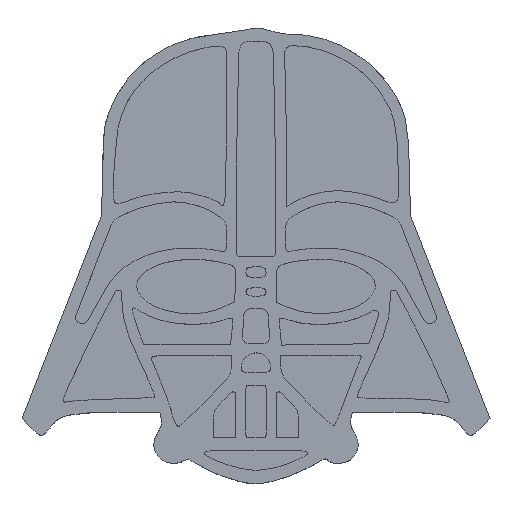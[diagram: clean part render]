
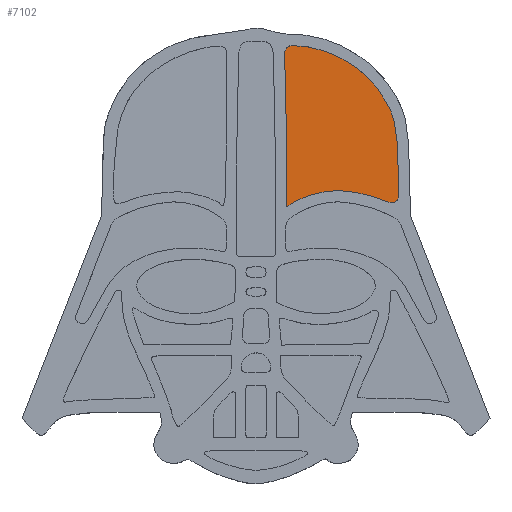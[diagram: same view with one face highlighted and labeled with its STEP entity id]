
A CAD part, top view. The second image highlights one B-rep face of the part: STEP entity #7102.
In plain terms, the highlighted planar face has unit normal (0, 0, 1).
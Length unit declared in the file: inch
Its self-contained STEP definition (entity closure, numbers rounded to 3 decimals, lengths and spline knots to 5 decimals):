
#354=B_SPLINE_CURVE_WITH_KNOTS('',3,(#9709,#9710,#9711,#9712,#9713,#9714,
#9715),.UNSPECIFIED.,.F.,.F.,(4,3,4),(-1.,0.,0.),
 .UNSPECIFIED.);
#355=B_SPLINE_CURVE_WITH_KNOTS('',3,(#9717,#9718,#9719,#9720,#9721,#9722,
#9723),.UNSPECIFIED.,.F.,.F.,(4,3,4),(-1.,-0.84795,0.),
 .UNSPECIFIED.);
#356=B_SPLINE_CURVE_WITH_KNOTS('',3,(#9725,#9726,#9727,#9728,#9729,#9730,
#9731),.UNSPECIFIED.,.F.,.F.,(4,3,4),(-1.,-0.65431,0.),
 .UNSPECIFIED.);
#357=B_SPLINE_CURVE_WITH_KNOTS('',3,(#9739,#9740,#9741,#9742,#9743,#9744,
#9745,#9746,#9747,#9748),.UNSPECIFIED.,.F.,.F.,(4,3,3,4),(0.05689,
0.70407,1.05419,1.10248),.UNSPECIFIED.);
#358=B_SPLINE_CURVE_WITH_KNOTS('',3,(#9749,#9750,#9751,#9752,#9753,#9754,
#9755,#9756,#9757,#9758),.UNSPECIFIED.,.F.,.F.,(4,3,3,4),(0.20795,
0.65664,1.12277,1.12527),.UNSPECIFIED.);
#369=CIRCLE('',#7558,0.05);
#370=CIRCLE('',#7559,0.05633);
#427=LINE('',#9707,#931);
#428=LINE('',#9735,#932);
#429=LINE('',#9737,#933);
#931=VECTOR('',#7949,0.3937);
#932=VECTOR('',#7952,0.3937);
#933=VECTOR('',#7953,0.3937);
#1428=FACE_OUTER_BOUND('',#1831,.T.);
#1831=EDGE_LOOP('',(#4921,#4922,#4923,#4924,#4925,#4926,#4927,#4928,#4929,
#4930));
#3021=VERTEX_POINT('',#9703);
#3022=VERTEX_POINT('',#9704);
#3023=VERTEX_POINT('',#9706);
#3024=VERTEX_POINT('',#9708);
#3025=VERTEX_POINT('',#9716);
#3026=VERTEX_POINT('',#9724);
#3027=VERTEX_POINT('',#9732);
#3028=VERTEX_POINT('',#9734);
#3029=VERTEX_POINT('',#9736);
#3030=VERTEX_POINT('',#9738);
#3781=EDGE_CURVE('',#3021,#3022,#369,.T.);
#3782=EDGE_CURVE('',#3023,#3021,#427,.T.);
#3783=EDGE_CURVE('',#3024,#3023,#354,.T.);
#3784=EDGE_CURVE('',#3025,#3024,#355,.T.);
#3785=EDGE_CURVE('',#3026,#3025,#356,.T.);
#3786=EDGE_CURVE('',#3027,#3026,#370,.T.);
#3787=EDGE_CURVE('',#3028,#3027,#428,.T.);
#3788=EDGE_CURVE('',#3029,#3028,#429,.T.);
#3789=EDGE_CURVE('',#3030,#3029,#357,.T.);
#3790=EDGE_CURVE('',#3022,#3030,#358,.T.);
#4921=ORIENTED_EDGE('',*,*,#3781,.F.);
#4922=ORIENTED_EDGE('',*,*,#3782,.F.);
#4923=ORIENTED_EDGE('',*,*,#3783,.F.);
#4924=ORIENTED_EDGE('',*,*,#3784,.F.);
#4925=ORIENTED_EDGE('',*,*,#3785,.F.);
#4926=ORIENTED_EDGE('',*,*,#3786,.F.);
#4927=ORIENTED_EDGE('',*,*,#3787,.F.);
#4928=ORIENTED_EDGE('',*,*,#3788,.F.);
#4929=ORIENTED_EDGE('',*,*,#3789,.F.);
#4930=ORIENTED_EDGE('',*,*,#3790,.F.);
#7017=PLANE('',#7557);
#7102=ADVANCED_FACE('',(#1428),#7017,.T.);
#7557=AXIS2_PLACEMENT_3D('',#9702,#7945,#7946);
#7558=AXIS2_PLACEMENT_3D('',#9705,#7947,#7948);
#7559=AXIS2_PLACEMENT_3D('',#9733,#7950,#7951);
#7945=DIRECTION('center_axis',(0.,0.,1.));
#7946=DIRECTION('ref_axis',(1.,0.,0.));
#7947=DIRECTION('center_axis',(0.,0.,-1.));
#7948=DIRECTION('ref_axis',(-0.404,-0.915,0.));
#7949=DIRECTION('',(0.021,-1.,0.));
#7950=DIRECTION('center_axis',(0.,0.,-1.));
#7951=DIRECTION('ref_axis',(0.154,0.988,0.));
#7952=DIRECTION('',(-0.023,1.,0.));
#7953=DIRECTION('',(0.,1.,0.));
#9702=CARTESIAN_POINT('Origin',(3.78094,-4.88687,0.));
#9703=CARTESIAN_POINT('',(4.79794,-4.45418,0.));
#9704=CARTESIAN_POINT('',(4.72773,-4.50095,0.));
#9705=CARTESIAN_POINT('Origin',(4.74795,-4.45522,0.));
#9706=CARTESIAN_POINT('',(4.79433,-4.28089,0.));
#9707=CARTESIAN_POINT('',(4.79794,-4.45418,0.));
#9708=CARTESIAN_POINT('',(4.7668,-3.93099,0.));
#9709=CARTESIAN_POINT('Ctrl Pts',(4.7668,-3.93099,0.));
#9710=CARTESIAN_POINT('Ctrl Pts',(4.78412,-4.00505,0.));
#9711=CARTESIAN_POINT('Ctrl Pts',(4.79071,-4.10685,0.));
#9712=CARTESIAN_POINT('Ctrl Pts',(4.79433,-4.28089,0.));
#9713=CARTESIAN_POINT('Ctrl Pts',(4.79433,-4.28089,0.));
#9714=CARTESIAN_POINT('Ctrl Pts',(4.79433,-4.28089,0.));
#9715=CARTESIAN_POINT('Ctrl Pts',(4.79433,-4.28089,0.));
#9716=CARTESIAN_POINT('',(4.6662,-3.72046,0.));
#9717=CARTESIAN_POINT('Ctrl Pts',(4.6662,-3.72046,0.));
#9718=CARTESIAN_POINT('Ctrl Pts',(4.67474,-3.73344,0.));
#9719=CARTESIAN_POINT('Ctrl Pts',(4.68265,-3.74571,0.));
#9720=CARTESIAN_POINT('Ctrl Pts',(4.68995,-3.75742,0.));
#9721=CARTESIAN_POINT('Ctrl Pts',(4.73066,-3.82272,0.));
#9722=CARTESIAN_POINT('Ctrl Pts',(4.7521,-3.86827,0.));
#9723=CARTESIAN_POINT('Ctrl Pts',(4.7668,-3.93099,0.));
#9724=CARTESIAN_POINT('',(4.0497,-3.38558,0.));
#9725=CARTESIAN_POINT('Ctrl Pts',(4.0497,-3.38558,0.));
#9726=CARTESIAN_POINT('Ctrl Pts',(4.12732,-3.38562,0.));
#9727=CARTESIAN_POINT('Ctrl Pts',(4.21034,-3.402,0.));
#9728=CARTESIAN_POINT('Ctrl Pts',(4.29074,-3.43213,0.));
#9729=CARTESIAN_POINT('Ctrl Pts',(4.44292,-3.48917,0.));
#9730=CARTESIAN_POINT('Ctrl Pts',(4.58445,-3.59611,0.));
#9731=CARTESIAN_POINT('Ctrl Pts',(4.6662,-3.72046,0.));
#9732=CARTESIAN_POINT('',(3.98474,-3.44271,0.));
#9733=CARTESIAN_POINT('Origin',(4.04104,-3.44124,0.));
#9734=CARTESIAN_POINT('',(3.99863,-4.04104,0.));
#9735=CARTESIAN_POINT('',(3.98474,-3.44271,0.));
#9736=CARTESIAN_POINT('',(3.99863,-4.53434,0.));
#9737=CARTESIAN_POINT('',(3.99863,-4.53434,0.));
#9738=CARTESIAN_POINT('',(4.36738,-4.41783,0.));
#9739=CARTESIAN_POINT('Ctrl Pts',(4.36738,-4.41783,0.));
#9740=CARTESIAN_POINT('Ctrl Pts',(4.2887,-4.41769,0.));
#9741=CARTESIAN_POINT('Ctrl Pts',(4.2042,-4.43594,0.));
#9742=CARTESIAN_POINT('Ctrl Pts',(4.12795,-4.46518,0.));
#9743=CARTESIAN_POINT('Ctrl Pts',(4.08671,-4.48099,0.));
#9744=CARTESIAN_POINT('Ctrl Pts',(4.0481,-4.50005,0.));
#9745=CARTESIAN_POINT('Ctrl Pts',(4.01426,-4.52351,0.));
#9746=CARTESIAN_POINT('Ctrl Pts',(4.00905,-4.52712,0.));
#9747=CARTESIAN_POINT('Ctrl Pts',(4.00384,-4.53073,0.));
#9748=CARTESIAN_POINT('Ctrl Pts',(3.99863,-4.53434,0.));
#9749=CARTESIAN_POINT('Ctrl Pts',(4.72773,-4.50095,0.));
#9750=CARTESIAN_POINT('Ctrl Pts',(4.67523,-4.47773,0.));
#9751=CARTESIAN_POINT('Ctrl Pts',(4.61342,-4.45852,0.));
#9752=CARTESIAN_POINT('Ctrl Pts',(4.55123,-4.44372,0.));
#9753=CARTESIAN_POINT('Ctrl Pts',(4.48662,-4.42835,0.));
#9754=CARTESIAN_POINT('Ctrl Pts',(4.42341,-4.41803,0.));
#9755=CARTESIAN_POINT('Ctrl Pts',(4.36836,-4.41783,0.));
#9756=CARTESIAN_POINT('Ctrl Pts',(4.36803,-4.41783,0.));
#9757=CARTESIAN_POINT('Ctrl Pts',(4.36771,-4.41783,0.));
#9758=CARTESIAN_POINT('Ctrl Pts',(4.36738,-4.41783,0.));
